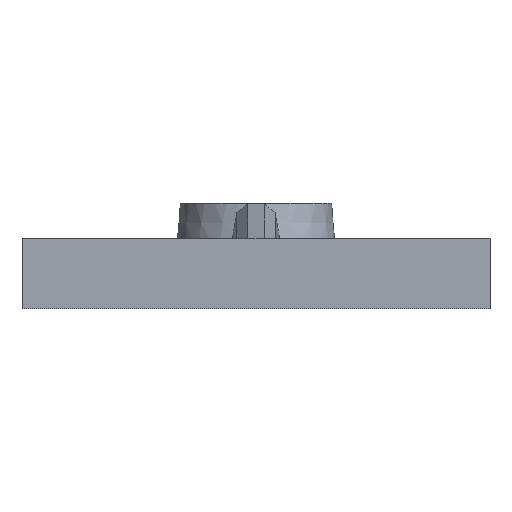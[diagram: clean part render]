
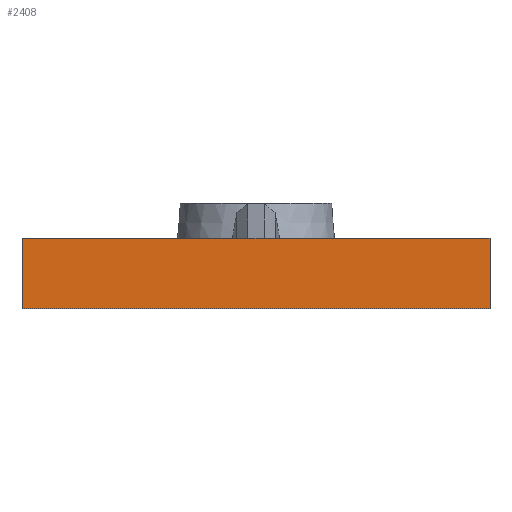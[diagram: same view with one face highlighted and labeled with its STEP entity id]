
A CAD part, front view. The second image highlights one B-rep face of the part: STEP entity #2408.
In plain terms, the highlighted planar face has unit normal (0, -1, 0).
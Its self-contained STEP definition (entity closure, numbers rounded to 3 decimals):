
#147=PLANE('',#2601);
#282=FACE_OUTER_BOUND('',#430,.T.);
#430=EDGE_LOOP('',(#2219,#2220,#2221,#2222,#2223,#2224));
#643=LINE('',#3533,#806);
#673=LINE('',#7704,#836);
#745=LINE('',#8946,#908);
#750=LINE('',#8962,#913);
#771=LINE('',#9043,#934);
#778=LINE('',#9063,#941);
#806=VECTOR('',#2683,10.);
#836=VECTOR('',#2791,10.);
#908=VECTOR('',#3009,10.);
#913=VECTOR('',#3032,10.);
#934=VECTOR('',#3109,10.);
#941=VECTOR('',#3142,10.);
#987=VERTEX_POINT('',#3530);
#988=VERTEX_POINT('',#3532);
#1032=VERTEX_POINT('',#7692);
#1036=VERTEX_POINT('',#7702);
#1147=VERTEX_POINT('',#8944);
#1149=VERTEX_POINT('',#8961);
#1221=EDGE_CURVE('',#988,#987,#643,.T.);
#1296=EDGE_CURVE('',#1032,#1036,#673,.T.);
#1471=EDGE_CURVE('',#1147,#1036,#745,.T.);
#1478=EDGE_CURVE('',#1032,#1149,#750,.T.);
#1514=EDGE_CURVE('',#988,#1147,#771,.T.);
#1523=EDGE_CURVE('',#987,#1149,#778,.T.);
#2219=ORIENTED_EDGE('',*,*,#1478,.F.);
#2220=ORIENTED_EDGE('',*,*,#1296,.T.);
#2221=ORIENTED_EDGE('',*,*,#1471,.F.);
#2222=ORIENTED_EDGE('',*,*,#1514,.F.);
#2223=ORIENTED_EDGE('',*,*,#1221,.T.);
#2224=ORIENTED_EDGE('',*,*,#1523,.T.);
#2408=ADVANCED_FACE('',(#282),#147,.T.);
#2601=AXIS2_PLACEMENT_3D('',#9064,#3143,#3144);
#2683=DIRECTION('',(1.,0.,0.));
#2791=DIRECTION('',(-1.,0.,0.));
#3009=DIRECTION('',(1.,0.,0.));
#3032=DIRECTION('',(1.,0.,0.));
#3109=DIRECTION('',(0.,0.,1.));
#3142=DIRECTION('',(0.,0.,1.));
#3143=DIRECTION('center_axis',(0.,-1.,0.));
#3144=DIRECTION('ref_axis',(1.,0.,0.));
#3530=CARTESIAN_POINT('',(0.,-42.533,42.875));
#3532=CARTESIAN_POINT('',(-40.,-42.533,42.875));
#3533=CARTESIAN_POINT('',(-40.,-42.533,42.875));
#7692=CARTESIAN_POINT('',(-19.3,-42.533,48.875));
#7702=CARTESIAN_POINT('',(-20.7,-42.533,48.875));
#7704=CARTESIAN_POINT('',(-29.25,-42.533,48.875));
#8944=CARTESIAN_POINT('',(-40.,-42.533,48.875));
#8946=CARTESIAN_POINT('',(-40.,-42.533,48.875));
#8961=CARTESIAN_POINT('',(0.,-42.533,48.875));
#8962=CARTESIAN_POINT('',(-40.,-42.533,48.875));
#9043=CARTESIAN_POINT('',(-40.,-42.533,42.875));
#9063=CARTESIAN_POINT('',(0.,-42.533,42.875));
#9064=CARTESIAN_POINT('Origin',(-40.,-42.533,42.875));
